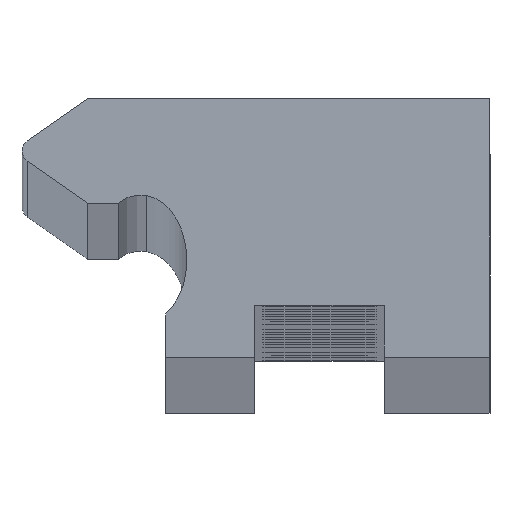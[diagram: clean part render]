
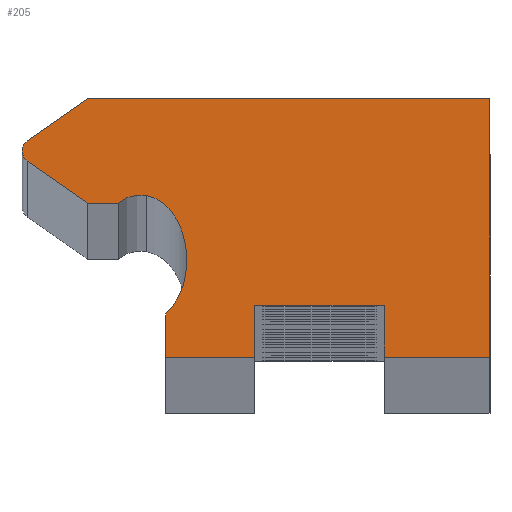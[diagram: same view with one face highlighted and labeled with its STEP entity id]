
A CAD part, top view. The second image highlights one B-rep face of the part: STEP entity #205.
In plain terms, the highlighted planar face has unit normal (0, 0, 1).
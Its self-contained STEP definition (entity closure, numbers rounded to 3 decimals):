
#205=ADVANCED_FACE('',(#533),#534,.F.);
#533=FACE_OUTER_BOUND('',#861,.T.);
#534=PLANE('',#862);
#861=EDGE_LOOP('',(#1876,#1877,#1878,#1879,#1880,#1881,#1882,#1883,#1884,#1885,#1886,#1887,#1888,#1889,#1890,#1891,#1892,#1893,#1894));
#862=AXIS2_PLACEMENT_3D('',#1895,#1896,#1897);
#1876=ORIENTED_EDGE('',*,*,#2218,.F.);
#1877=ORIENTED_EDGE('',*,*,#2172,.F.);
#1878=ORIENTED_EDGE('',*,*,#2176,.F.);
#1879=ORIENTED_EDGE('',*,*,#2179,.F.);
#1880=ORIENTED_EDGE('',*,*,#2182,.F.);
#1881=ORIENTED_EDGE('',*,*,#2185,.F.);
#1882=ORIENTED_EDGE('',*,*,#2188,.F.);
#1883=ORIENTED_EDGE('',*,*,#2191,.F.);
#1884=ORIENTED_EDGE('',*,*,#2193,.F.);
#1885=ORIENTED_EDGE('',*,*,#1903,.F.);
#1886=ORIENTED_EDGE('',*,*,#2196,.F.);
#1887=ORIENTED_EDGE('',*,*,#2199,.F.);
#1888=ORIENTED_EDGE('',*,*,#2202,.F.);
#1889=ORIENTED_EDGE('',*,*,#2205,.T.);
#1890=ORIENTED_EDGE('',*,*,#2208,.T.);
#1891=ORIENTED_EDGE('',*,*,#2211,.T.);
#1892=ORIENTED_EDGE('',*,*,#2212,.T.);
#1893=ORIENTED_EDGE('',*,*,#1901,.T.);
#1894=ORIENTED_EDGE('',*,*,#2216,.T.);
#1895=CARTESIAN_POINT('',(-2.06,8.488,1976.0));
#1896=DIRECTION('',(0.,0.0,-1.0));
#1897=DIRECTION('',(-1.0,0.0,0.));
#1901=EDGE_CURVE('',#2220,#2224,#2226,.T.);
#1903=EDGE_CURVE('',#2227,#2230,#2231,.T.);
#2172=EDGE_CURVE('',#2678,#2680,#2681,.T.);
#2176=EDGE_CURVE('',#2685,#2678,#2687,.T.);
#2179=EDGE_CURVE('',#2690,#2685,#2692,.T.);
#2182=EDGE_CURVE('',#2695,#2690,#2697,.T.);
#2185=EDGE_CURVE('',#2700,#2695,#2702,.T.);
#2188=EDGE_CURVE('',#2705,#2700,#2707,.T.);
#2191=EDGE_CURVE('',#2710,#2705,#2712,.T.);
#2193=EDGE_CURVE('',#2230,#2710,#2714,.T.);
#2196=EDGE_CURVE('',#2717,#2227,#2719,.T.);
#2199=EDGE_CURVE('',#2722,#2717,#2724,.T.);
#2202=EDGE_CURVE('',#2727,#2722,#2729,.T.);
#2205=EDGE_CURVE('',#2727,#2732,#2734,.T.);
#2208=EDGE_CURVE('',#2732,#2737,#2739,.T.);
#2211=EDGE_CURVE('',#2737,#2742,#2744,.T.);
#2212=EDGE_CURVE('',#2742,#2220,#2745,.T.);
#2216=EDGE_CURVE('',#2224,#2749,#2751,.T.);
#2218=EDGE_CURVE('',#2680,#2749,#2753,.T.);
#2220=VERTEX_POINT('',#2755);
#2224=VERTEX_POINT('',#2760);
#2226=CIRCLE('',#2763,5.534);
#2227=VERTEX_POINT('',#2764);
#2230=VERTEX_POINT('',#2768);
#2231=CIRCLE('',#2769,0.76);
#2678=VERTEX_POINT('',#3306);
#2680=VERTEX_POINT('',#3309);
#2681=LINE('',#3310,#3311);
#2685=VERTEX_POINT('',#3317);
#2687=LINE('',#3320,#3321);
#2690=VERTEX_POINT('',#3325);
#2692=LINE('',#3328,#3329);
#2695=VERTEX_POINT('',#3333);
#2697=LINE('',#3336,#3337);
#2700=VERTEX_POINT('',#3341);
#2702=LINE('',#3344,#3345);
#2705=VERTEX_POINT('',#3349);
#2707=LINE('',#3352,#3353);
#2710=VERTEX_POINT('',#3357);
#2712=LINE('',#3360,#3361);
#2714=LINE('',#3364,#3365);
#2717=VERTEX_POINT('',#3368);
#2719=CIRCLE('',#3371,0.76);
#2722=VERTEX_POINT('',#3375);
#2724=LINE('',#3378,#3379);
#2727=VERTEX_POINT('',#3383);
#2729=LINE('',#3386,#3387);
#2732=VERTEX_POINT('',#3390);
#2734=CIRCLE('',#3393,2.135);
#2737=VERTEX_POINT('',#3396);
#2739=CIRCLE('',#3399,2.478);
#2742=VERTEX_POINT('',#3402);
#2744=CIRCLE('',#3405,3.944);
#2745=CIRCLE('',#3406,5.534);
#2749=VERTEX_POINT('',#3410);
#2751=CIRCLE('',#3413,4.266);
#2753=LINE('',#3416,#3417);
#2755=CARTESIAN_POINT('',(-8.17,5.986,1976.0));
#2760=CARTESIAN_POINT('',(-8.248,5.056,1976.0));
#2763=AXIS2_PLACEMENT_3D('',#3423,#3424,#3425);
#2764=CARTESIAN_POINT('',(-18.305,12.7,1976.0));
#2768=CARTESIAN_POINT('',(-17.981,13.323,1976.0));
#2769=AXIS2_PLACEMENT_3D('',#3427,#3428,#3429);
#3306=CARTESIAN_POINT('',(-4.,0.0,1976.0));
#3309=CARTESIAN_POINT('',(-9.5,0.0,1976.0));
#3310=CARTESIAN_POINT('',(-4.,0.0,1976.0));
#3311=VECTOR('',#4052,1.0);
#3317=CARTESIAN_POINT('',(-4.,3.2,1976.0));
#3320=CARTESIAN_POINT('',(-4.,3.2,1976.0));
#3321=VECTOR('',#4056,1.0);
#3325=CARTESIAN_POINT('',(4.,3.2,1976.0));
#3328=CARTESIAN_POINT('',(4.,3.2,1976.0));
#3329=VECTOR('',#4059,1.0);
#3333=CARTESIAN_POINT('',(4.,0.0,1976.0));
#3336=CARTESIAN_POINT('',(4.,0.0,1976.0));
#3337=VECTOR('',#4062,1.0);
#3341=CARTESIAN_POINT('',(10.5,0.0,1976.0));
#3344=CARTESIAN_POINT('',(10.5,0.0,1976.0));
#3345=VECTOR('',#4065,1.0);
#3349=CARTESIAN_POINT('',(10.5,15.91,1976.0));
#3352=CARTESIAN_POINT('',(10.5,15.91,1976.0));
#3353=VECTOR('',#4068,1.0);
#3357=CARTESIAN_POINT('',(-14.286,15.91,1976.0));
#3360=CARTESIAN_POINT('',(-14.286,15.91,1976.0));
#3361=VECTOR('',#4071,1.0);
#3364=CARTESIAN_POINT('',(-17.981,13.323,1976.0));
#3365=VECTOR('',#4073,1.0);
#3368=CARTESIAN_POINT('',(-17.981,12.077,1976.0));
#3371=AXIS2_PLACEMENT_3D('',#4078,#4079,#4080);
#3375=CARTESIAN_POINT('',(-14.286,9.49,1976.0));
#3378=CARTESIAN_POINT('',(-14.286,9.49,1976.0));
#3379=VECTOR('',#4083,1.0);
#3383=CARTESIAN_POINT('',(-12.37,9.49,1976.0));
#3386=CARTESIAN_POINT('',(-12.37,9.49,1976.0));
#3387=VECTOR('',#4086,1.0);
#3390=CARTESIAN_POINT('',(-10.639,9.957,1976.0));
#3393=AXIS2_PLACEMENT_3D('',#4091,#4092,#4093);
#3396=CARTESIAN_POINT('',(-9.254,9.138,1976.0));
#3399=AXIS2_PLACEMENT_3D('',#4098,#4099,#4100);
#3402=CARTESIAN_POINT('',(-8.442,7.702,1976.0));
#3405=AXIS2_PLACEMENT_3D('',#4105,#4106,#4107);
#3406=AXIS2_PLACEMENT_3D('',#4108,#4109,#4110);
#3410=CARTESIAN_POINT('',(-9.5,2.598,1976.0));
#3413=AXIS2_PLACEMENT_3D('',#4118,#4119,#4120);
#3416=CARTESIAN_POINT('',(-9.5,0.0,1976.0));
#3417=VECTOR('',#4122,1.0);
#3423=CARTESIAN_POINT('',(-13.704,5.986,1976.0));
#3424=DIRECTION('',(0.,0.0,-1.0));
#3425=DIRECTION('',(-1.0,0.0,0.));
#3427=CARTESIAN_POINT('',(-17.545,12.7,1976.0));
#3428=DIRECTION('',(0.,0.0,-1.0));
#3429=DIRECTION('',(-1.0,0.0,0.));
#4052=DIRECTION('',(-1.0,0.0,0.));
#4056=DIRECTION('',(0.0,-1.0,-0.0));
#4059=DIRECTION('',(-1.0,0.0,0.));
#4062=DIRECTION('',(0.0,1.0,0.0));
#4065=DIRECTION('',(-1.0,0.0,0.));
#4068=DIRECTION('',(0.0,-1.0,-0.0));
#4071=DIRECTION('',(1.0,0.0,0.));
#4073=DIRECTION('',(0.819,0.574,0.));
#4078=CARTESIAN_POINT('',(-17.545,12.7,1976.0));
#4079=DIRECTION('',(0.,0.0,-1.0));
#4080=DIRECTION('',(-1.0,0.0,0.));
#4083=DIRECTION('',(-0.819,0.574,0.));
#4086=DIRECTION('',(-1.0,0.0,0.));
#4091=CARTESIAN_POINT('',(-10.999,7.853,1976.0));
#4092=DIRECTION('',(0.,0.0,-1.0));
#4093=DIRECTION('',(-1.0,0.0,0.));
#4098=CARTESIAN_POINT('',(-11.14,7.531,1976.0));
#4099=DIRECTION('',(0.,0.0,-1.0));
#4100=DIRECTION('',(-1.0,0.0,0.));
#4105=CARTESIAN_POINT('',(-12.205,6.522,1976.0));
#4106=DIRECTION('',(0.,0.0,-1.0));
#4107=DIRECTION('',(-1.0,0.0,0.));
#4108=CARTESIAN_POINT('',(-13.704,5.986,1976.0));
#4109=DIRECTION('',(0.,0.0,-1.0));
#4110=DIRECTION('',(-1.0,0.0,0.));
#4118=CARTESIAN_POINT('',(-12.472,5.659,1976.0));
#4119=DIRECTION('',(0.,0.0,-1.0));
#4120=DIRECTION('',(-1.0,0.0,0.));
#4122=DIRECTION('',(0.0,1.0,0.0));
